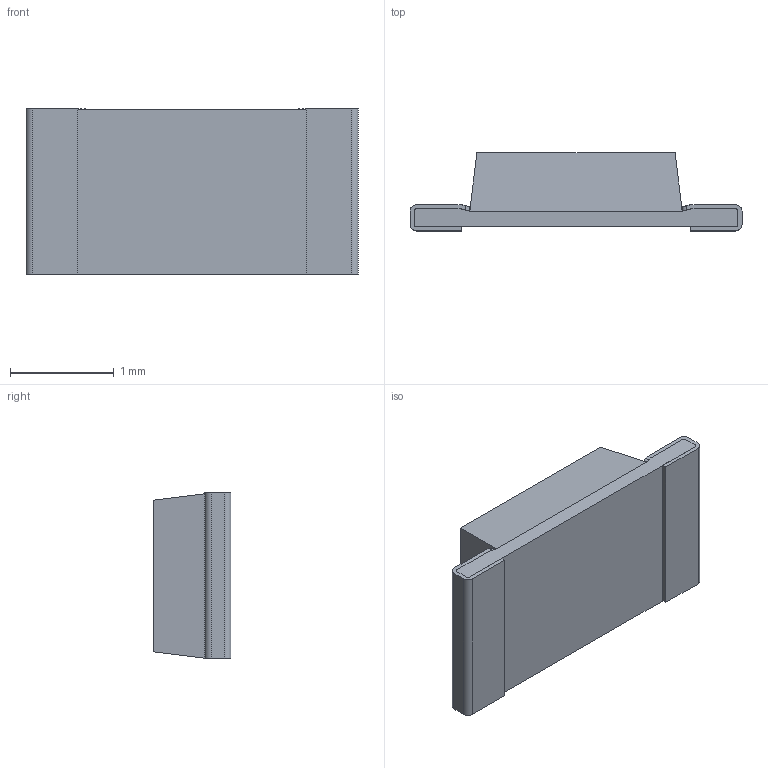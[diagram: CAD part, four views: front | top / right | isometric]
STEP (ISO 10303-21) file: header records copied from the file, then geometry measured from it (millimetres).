
FILE_DESCRIPTION (( 'STEP AP214' ), '1' );
FILE_NAME ('CDLED3216X08G.STEP', '2013-04-01T11:26:30', ( 'Tester2' ), ( '' ), 'SwSTEP 2.0', 'SolidWorks 2012', '' );
FILE_SCHEMA (( 'AUTOMOTIVE_DESIGN' ));
Length unit declared in the file: millimetre
Products named in the file (1): CDLED3216X08G
Bounding box: 3.2 x 0.75 x 1.6 mm (x, y, z)
Volume: 2.7 mm3; surface area: 35.5 mm2
Topology: 3 solids, 3 shells, 74 faces, 204 edges, 136 vertices
Faces by surface type: plane 46, cylinder 28
Entity records: 3020 total; most frequent: CARTESIAN_POINT 475, ORIENTED_EDGE 408, DIRECTION 374, EDGE_CURVE 204, LINE 144, VECTOR 144, VERTEX_POINT 136, AXIS2_PLACEMENT_3D 115
